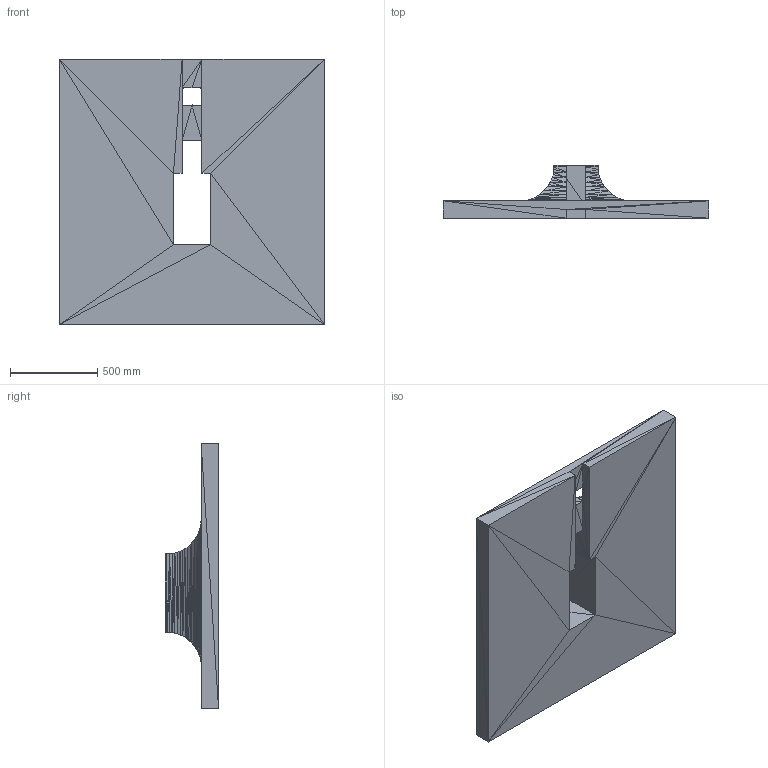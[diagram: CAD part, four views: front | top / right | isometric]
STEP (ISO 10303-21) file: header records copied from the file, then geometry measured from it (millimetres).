
FILE_DESCRIPTION(/* description */ (''),/* implementation_level */ '2;1');
FILE_NAME(/* name */ 'Base_2.step',/* time_stamp */ '2026-08-26T22:00:46+02:00',/* author */ (''),/* organization */ (''),/* preprocessor_version */ 'ST-DEVELOPER v20.1',/* originating_system */ 'Autodesk Translation Framework v15.8.0.0',/* authorisation */ '');
FILE_SCHEMA (('AUTOMOTIVE_DESIGN { 1 0 10303 214 3 1 1 }'));
Length unit declared in the file: millimetre
Products named in the file (1): 2026-08-26-21-56-38-846
Bounding box: 1524 x 304.8 x 1524 mm (x, y, z)
Volume: 219907979 mm3; surface area: 5992376.7 mm2
Topology: 1 solids, 1 shells, 1022 faces, 1533 edges, 509 vertices
Faces by surface type: plane 1022
Entity records: 19966 total; most frequent: DIRECTION 3579, ORIENTED_EDGE 3066, CARTESIAN_POINT 3065, LINE 1533, VECTOR 1533, EDGE_CURVE 1533, AXIS2_PLACEMENT_3D 1023, FACE_OUTER_BOUND 1022
